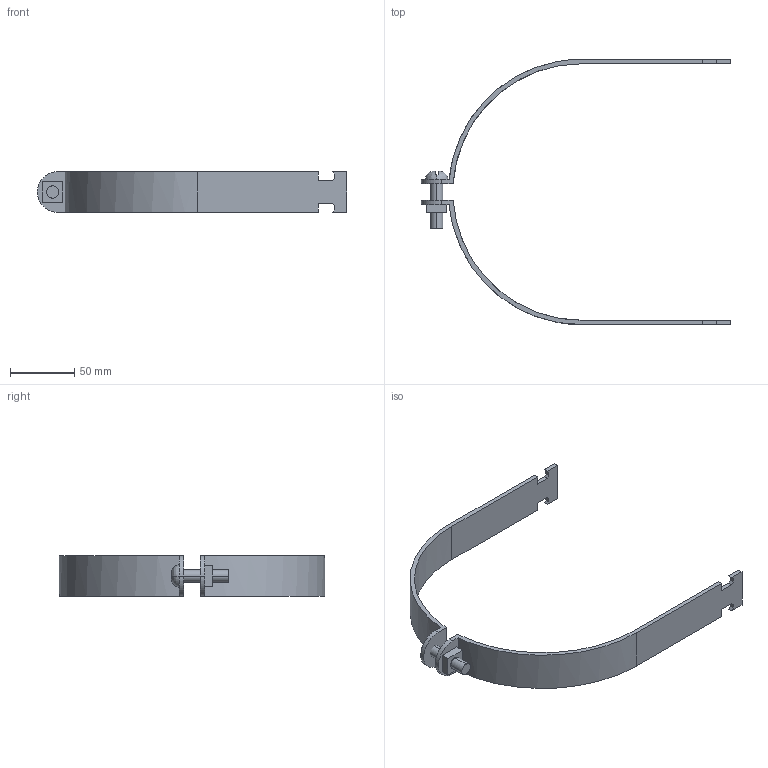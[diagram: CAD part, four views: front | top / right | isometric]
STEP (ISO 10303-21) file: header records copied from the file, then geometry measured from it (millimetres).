
FILE_DESCRIPTION(('TurboCAD Mac Pro'),'Build 980');
FILE_NAME('P2070-77.stp',' ',(''),(''),'ACIS Interop','IMSI','TurboCAD Mac Pro BY IMSI, INCORPORATED');
FILE_SCHEMA(('automotive_design'));
Length unit declared in the file: inch
Products named in the file (5): 1; 2; 3; 4; 5
Bounding box: 241.3 x 206.93 x 31.75 mm (x, y, z)
Volume: 66533.3 mm3; surface area: 43291.4 mm2
Topology: 4 solids, 4 shells, 71 faces, 186 edges, 124 vertices
Faces by surface type: plane 51, bspline 20
Entity records: 3487 total; most frequent: CARTESIAN_POINT 1050, ORIENTED_EDGE 372, DIRECTION 258, EDGE_CURVE 186, LINE 138, VECTOR 138, VERTEX_POINT 124, STYLED_ITEM 91
